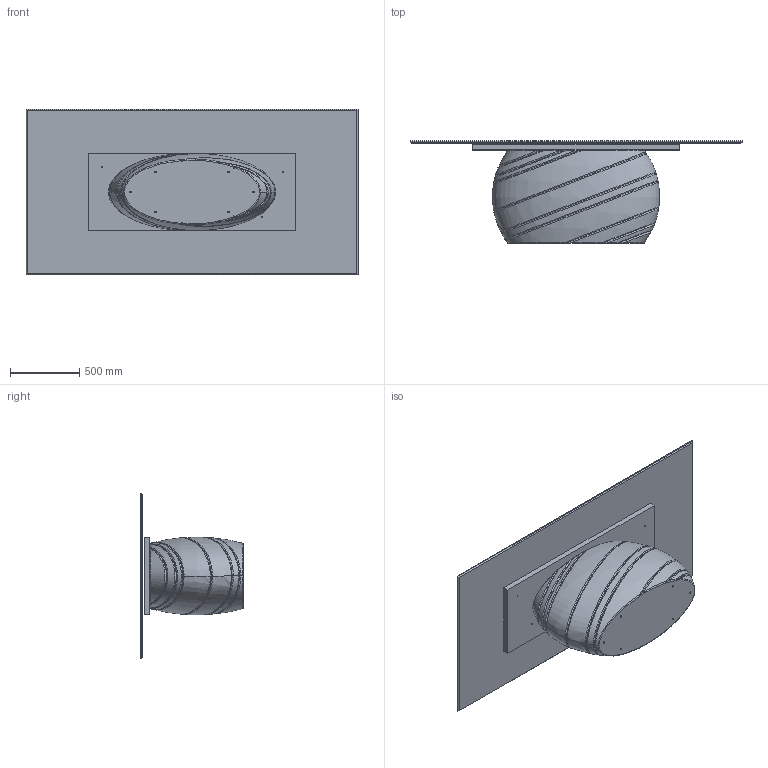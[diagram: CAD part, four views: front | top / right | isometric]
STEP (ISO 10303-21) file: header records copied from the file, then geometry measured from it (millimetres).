
FILE_DESCRIPTION (( 'STEP AP203' ), '1' );
FILE_NAME ('cer 239x119.STEP', '2025-05-26T14:01:24', ( '' ), ( '' ), 'SwSTEP 2.0', 'SolidWorks 2022', '' );
FILE_SCHEMA (( 'CONFIG_CONTROL_DESIGN' ));
Length unit declared in the file: millimetre
Products named in the file (3): PIANI_modello 3D x web_Ceramica 239x119; cer 239x119; GIB000xxx-00-BASE GIOVE X 300
Assembly tree (2 placements, depth 2):
  cer 239x119
    PIANI_modello 3D x web_Ceramica 239x119
    GIB000xxx-00-BASE GIOVE X 300
Bounding box: 2390 x 738 x 1190 mm (x, y, z)
Volume: 395364266.6 mm3; surface area: 10381221.4 mm2
Topology: 3 solids, 3 shells, 160 faces, 389 edges, 250 vertices
Faces by surface type: bspline 53, cylinder 44, plane 39, cone 24
Entity records: 37338 total; most frequent: CARTESIAN_POINT 33627, ORIENTED_EDGE 778, DIRECTION 584, EDGE_CURVE 389, VERTEX_POINT 250, AXIS2_PLACEMENT_3D 236, EDGE_LOOP 195, FACE_OUTER_BOUND 160
